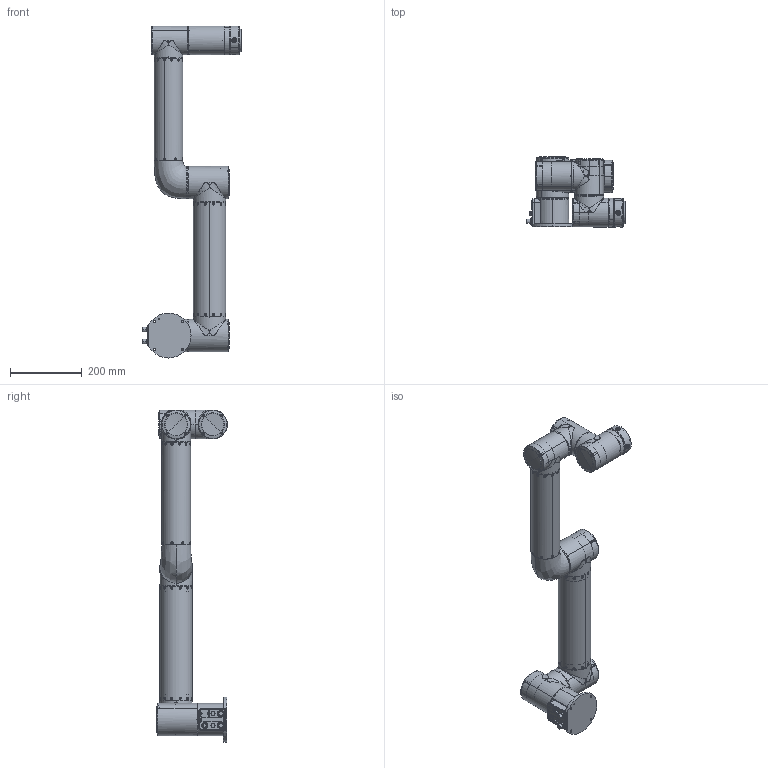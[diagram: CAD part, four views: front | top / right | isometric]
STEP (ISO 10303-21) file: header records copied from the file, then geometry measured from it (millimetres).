
FILE_DESCRIPTION (( 'STEP AP214' ), '1' );
FILE_NAME ('FR5-C-Model.STEP', '2026-04-08T06:29:24', ( '' ), ( '' ), 'SwSTEP 2.0', 'SolidWorks 2018', '' );
FILE_SCHEMA (( 'AUTOMOTIVE_DESIGN' ));
Length unit declared in the file: millimetre
Products named in the file (7): RD37-FR5C-V6.0-1-20251030; RD37-FR5C-V6.0-3-20251030; RD37-FR5C-V6.0-7-20251030; RD37-FR5C-V6.0-5-20251030; FR5-C-Model; RD37-FR5C-V6.0-4-20251030; RD37-FR5C-V6.0-2-20251030
Assembly tree (7 placements, depth 2):
  FR5-C-Model
    RD37-FR5C-V6.0-1-20251030
    RD37-FR5C-V6.0-2-20251030
    RD37-FR5C-V6.0-3-20251030
    RD37-FR5C-V6.0-4-20251030
    RD37-FR5C-V6.0-5-20251030  x2
    RD37-FR5C-V6.0-7-20251030
Bounding box: 273.75 x 195.99 x 922.5 mm (x, y, z)
Volume: 8851859.2 mm3; surface area: 890223.6 mm2
Topology: 31 solids, 102 shells, 3569 faces, 8664 edges, 5383 vertices
Faces by surface type: plane 1581, cylinder 1078, cone 489, bspline 256, sphere 90, torus 75
Entity records: 145744 total; most frequent: CARTESIAN_POINT 67238, ORIENTED_EDGE 16028, DIRECTION 15758, EDGE_CURVE 8014, AXIS2_PLACEMENT_3D 6007, VERTEX_POINT 5040, LINE 3744, VECTOR 3744
